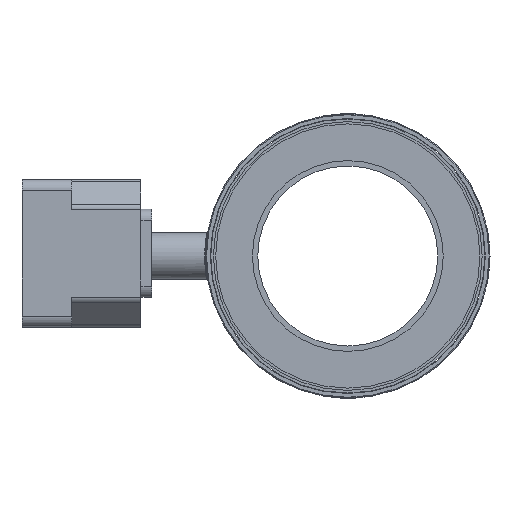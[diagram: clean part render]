
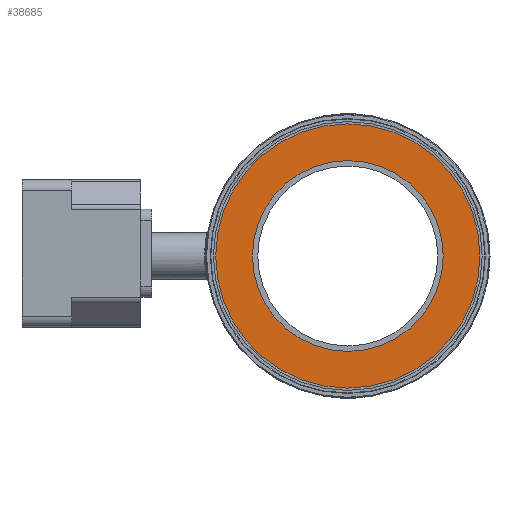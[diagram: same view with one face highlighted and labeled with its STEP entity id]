
A CAD part, left-side view. The second image highlights one B-rep face of the part: STEP entity #38685.
In plain terms, the highlighted planar face has unit normal (-1, 0, 0).
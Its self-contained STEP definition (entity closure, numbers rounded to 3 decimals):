
#1982=FACE_BOUND('',#13519,.T.);
#11260=FACE_OUTER_BOUND('',#13518,.T.);
#13518=EDGE_LOOP('',(#33207,#33208));
#13519=EDGE_LOOP('',(#33209));
#14234=CIRCLE('',#40966,73.4);
#14235=CIRCLE('',#40967,73.4);
#14236=CIRCLE('',#40968,53.);
#17608=VERTEX_POINT('',#69959);
#17609=VERTEX_POINT('',#69960);
#17610=VERTEX_POINT('',#69963);
#22823=EDGE_CURVE('',#17608,#17609,#14234,.T.);
#22824=EDGE_CURVE('',#17609,#17608,#14235,.T.);
#22825=EDGE_CURVE('',#17610,#17610,#14236,.T.);
#33207=ORIENTED_EDGE('',*,*,#22823,.T.);
#33208=ORIENTED_EDGE('',*,*,#22824,.T.);
#33209=ORIENTED_EDGE('',*,*,#22825,.T.);
#34625=PLANE('',#40965);
#38685=ADVANCED_FACE('',(#11260,#1982),#34625,.T.);
#40965=AXIS2_PLACEMENT_3D('',#69958,#49077,#49078);
#40966=AXIS2_PLACEMENT_3D('',#69961,#49079,#49080);
#40967=AXIS2_PLACEMENT_3D('',#69962,#49081,#49082);
#40968=AXIS2_PLACEMENT_3D('',#69964,#49083,#49084);
#49077=DIRECTION('center_axis',(-1.,0.,0.));
#49078=DIRECTION('ref_axis',(0.,0.,1.));
#49079=DIRECTION('center_axis',(-1.,0.,0.));
#49080=DIRECTION('ref_axis',(0.,0.,1.));
#49081=DIRECTION('center_axis',(-1.,0.,0.));
#49082=DIRECTION('ref_axis',(0.,0.,1.));
#49083=DIRECTION('center_axis',(1.,0.,0.));
#49084=DIRECTION('ref_axis',(0.,0.,-1.));
#69958=CARTESIAN_POINT('Origin',(-108.5,0.,0.));
#69959=CARTESIAN_POINT('',(-108.5,0.,73.4));
#69960=CARTESIAN_POINT('',(-108.5,0.,-73.4));
#69961=CARTESIAN_POINT('Origin',(-108.5,0.,0.));
#69962=CARTESIAN_POINT('Origin',(-108.5,0.,0.));
#69963=CARTESIAN_POINT('',(-108.5,0.,53.));
#69964=CARTESIAN_POINT('Origin',(-108.5,0.,0.));
